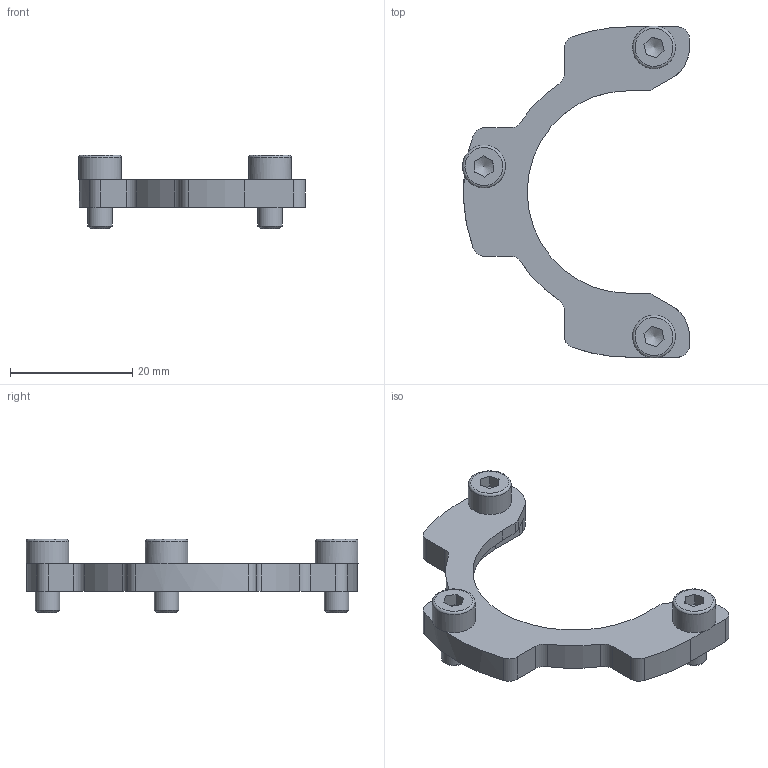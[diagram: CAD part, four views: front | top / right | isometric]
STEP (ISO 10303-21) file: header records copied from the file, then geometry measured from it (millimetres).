
FILE_DESCRIPTION((''),'2;1');
FILE_NAME('K:\Daten\10 Stammdaten Einzelteile\03 Befestigungselemente\00 Allgemein\Bauteil9.stp','2009-02-25T12:57:41',('kamp'),(''),'Autodesk Inventor 2008','Autodesk Inventor 2008','');
FILE_SCHEMA(('AUTOMOTIVE_DESIGN { 1 0 10303 214 1 1 1 1 }'));
Length unit declared in the file: millimetre
Products named in the file (1): Bauteil9
Bounding box: 37.1 x 54.27 x 12 mm (x, y, z)
Volume: 3441.2 mm3; surface area: 2732.6 mm2
Topology: 1 solids, 1 shells, 82 faces, 219 edges, 142 vertices
Faces by surface type: plane 40, cylinder 26, bspline 7, cone 6, torus 3
Full cylindrical faces by diameter (mm): 4 x3, 7 x3
Entity records: 2558 total; most frequent: CARTESIAN_POINT 510, DIRECTION 400, ORIENTED_EDGE 390, EDGE_CURVE 195, AXIS2_PLACEMENT_3D 147, VERTEX_POINT 133, VECTOR 106, LINE 106
